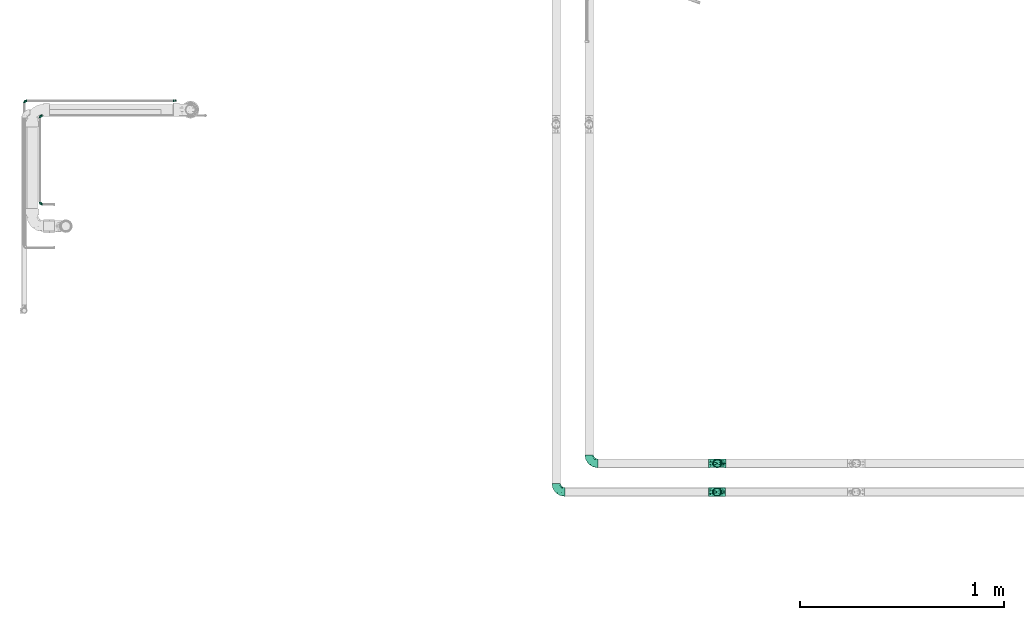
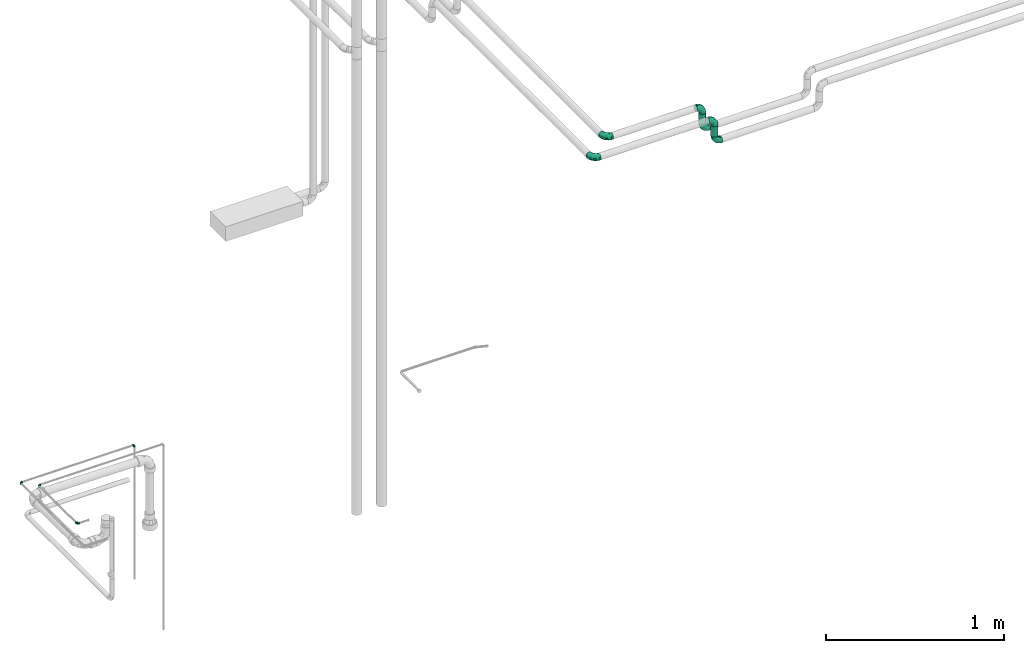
# One storey, part 66 of 108: 10 flow fittings, 2 flow segments.
"""IFC2X3 building model written with IfcOpenShell, lengths in millimetres."""

from ifc_helpers import new_model, entity, si_unit, converted_unit, derived_unit, direction, frame, origin_with_axes, origin_2d_with_axis, place, context, subcontext, project, spatial, hollow_circle, extrude, open_shell, surface_model, source, transform, mapped, type_object, element, save


model = new_model("IFC2X3")

# Units and contexts
model_context = context("Model", 3, precision=0.01, world=frame((0.0, 4.29681676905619e-09, 0.0)), true_north=direction((4.01073788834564e-13, 1.0)))
plan_context = context("Plan", 3, precision=0.01, world=frame((0.0, 4.29681676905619e-09, 0.0)), true_north=direction((4.01073788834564e-13, 1.0)))
body_context = subcontext(model_context, "Body", "Model", "MODEL_VIEW")
ifc_project = project(units=[converted_unit("PLANEANGLEUNIT", "DEGREE", entity("IfcPositiveLengthMeasure", 0.0174532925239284), si_unit("PLANEANGLEUNIT", "RADIAN"), dimensions=[0, 0, 0, 0, 0, 0, 0]), si_unit("AREAUNIT", "SQUARE_METRE"), si_unit("LENGTHUNIT", "METRE", prefix="MILLI"), si_unit("MASSUNIT", "GRAM", prefix="KILO"), si_unit("POWERUNIT", "WATT"), si_unit("PRESSUREUNIT", "PASCAL", prefix="KILO"), si_unit("FORCEUNIT", "NEWTON", prefix="KILO"), si_unit("ELECTRICVOLTAGEUNIT", "VOLT"), si_unit("ELECTRICCURRENTUNIT", "AMPERE"), si_unit("THERMODYNAMICTEMPERATUREUNIT", "DEGREE_CELSIUS"), si_unit("TIMEUNIT", "SECOND"), si_unit("VOLUMEUNIT", "CUBIC_METRE"), derived_unit("LINEARVELOCITYUNIT", [(si_unit("LENGTHUNIT", "METRE"), 1), (si_unit("TIMEUNIT", "SECOND"), -1)]), derived_unit("VOLUMETRICFLOWRATEUNIT", [(si_unit("VOLUMEUNIT", "CUBIC_METRE"), 1), (si_unit("TIMEUNIT", "SECOND"), -1)]), derived_unit("THERMALTRANSMITTANCEUNIT", [(si_unit("POWERUNIT", "WATT"), 1), (si_unit("THERMODYNAMICTEMPERATUREUNIT", "KELVIN"), -1), (si_unit("AREAUNIT", "SQUARE_METRE"), -1)]), derived_unit("SOUNDPRESSUREUNIT", [(si_unit("PRESSUREUNIT", "PASCAL"), 1)])], contexts=[model_context, plan_context])

# Site, building, storey
site_placement = place(None, frame((0.0, -4.29681676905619e-09, 0.0), z_axis=(0.0, 0.0, 1.0), x_axis=(1.0, 0.0, 0.0)))
site = spatial("IfcSite", under=ifc_project, at=site_placement, CompositionType="ELEMENT")
building_placement = place(site_placement, frame((0.0, 4.29681676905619e-09, 0.0), z_axis=(0.0, 0.0, 1.0), x_axis=(1.0, 0.0, 0.0)))
building = spatial("IfcBuilding", under=site, at=building_placement, Name="mc-building", CompositionType="ELEMENT")
storey_placement = place(building_placement, frame((0.0, 0.0, 210200.0), z_axis=(0.0, 0.0, 1.0), x_axis=(1.0, 0.0, 0.0)))
storey = spatial("IfcBuildingStorey", under=building, at=storey_placement, Name="Nivå F - 0,7 m", CompositionType="ELEMENT", Elevation=210200.0)

# Flow fittings
pipe_fitting_type_1 = type_object("IfcPipeFittingType", Name="magi_pipe_fe_elbow_short_001", PredefinedType="BEND")
shared_shape_1 = source(origin_with_axes(), body_context, "Body", "SurfaceModel", [
    surface_model("IfcShellBasedSurfaceModel", [(-42.4, 10.6, -18.35974), (-42.4, 5.48696, -20.47763), (-42.4, 0.0, -21.2), (-42.4, 14.99066, -14.99066), (-42.4, 20.47763, -5.48696), (-42.4, 18.35974, -10.6), (-42.4, -14.99066, 14.99066), (-42.4, -21.2, 0.0), (-42.4, -10.6, -18.35974), (-42.4, -14.99066, -14.99066), (-42.4, -5.48696, -20.47763), (-42.4, -18.35974, -10.6), (-42.4, -20.47763, -5.48696), (-42.4, 10.6, 18.35974), (-42.4, 20.47763, 5.48696), (-42.4, 18.35974, 10.6), (-42.4, 14.99066, 14.99066), (-42.4, 5.48696, 20.47763), (-42.4, 0.0, 21.2), (-42.4, -20.47763, 5.48696), (-42.4, -18.35974, 10.6), (-42.4, -10.6, 18.35974), (-42.4, -5.48696, 20.47763), (-42.4, 21.2, 0.0), (0.0, 42.4, -21.2), (-5.48696, 42.4, -20.47763), (-10.6, 42.4, -18.35974), (-14.99066, 42.4, -14.99066), (-18.35974, 42.4, -10.6), (-20.47763, 42.4, -5.48696), (21.2, 42.4, 0.0), (5.48696, 42.4, -20.47763), (14.99066, 42.4, -14.99066), (10.6, 42.4, -18.35974), (18.35974, 42.4, -10.6), (20.47763, 42.4, -5.48696), (14.99066, 42.4, 14.99066), (-20.47763, 42.4, 5.48696), (-10.6, 42.4, 18.35974), (-14.99066, 42.4, 14.99066), (-18.35974, 42.4, 10.6), (-5.48696, 42.4, 20.47763), (0.0, 42.4, 21.2), (18.35974, 42.4, 10.6), (20.47763, 42.4, 5.48696), (5.48696, 42.4, 20.47763), (10.6, 42.4, 18.35974), (-21.2, 42.4, 0.0), (-31.10239, -16.47009, 11.90111), (-27.83957, -12.231, 15.79732), (-30.23067, -18.77937, 0.0), (-18.74048, -13.50096, 10.69998), (-28.17586, -18.50359, 6.61185), (18.50359, 28.17586, 6.61185), (14.95929, 16.60735, 5.43468), (16.35874, 18.06133, 0.0), (-20.72313, 33.83635, 9.21426), (-17.70981, 33.00599, 13.92769), (-31.16033, -8.01664, 19.07348), (-32.38682, -2.80842, 20.83743), (-29.68688, 3.24967, 21.16387), (-7.74467, -9.46536, 0.0), (-16.60735, -14.95929, 5.43468), (-18.06133, -16.35874, 0.0), (-16.37932, -5.14532, 17.61254), (-21.10659, -0.19025, 20.54817), (-1.82445, -3.58377, 9.55223), (-0.35533, 0.43745, 12.66367), (-7.20655, -5.07682, 13.06146), (-33.14056, 17.6728, 13.91288), (-7.36799, 20.84806, 21.16196), (-15.70315, 15.70315, 20.68489), (-12.62356, 9.26422, 21.0908), (-36.67879, 12.83836, 17.27427), (-7.91358, 36.5686, 19.85759), (-2.90555, 31.71221, 21.14793), (-33.84689, 20.71971, 9.21285), (-33.51649, 22.58113, 4.66115), (-26.3226, 26.3226, 7.92474), (-32.67995, 8.31454, 20.02643), (-5.53379, 14.19921, 20.81623), (-10.53385, 3.88918, 19.79653), (-2.16577, 11.45378, 19.48254), (-3.78693, 3.78693, 17.3328), (12.231, 27.83957, 15.79732), (13.50096, 18.74047, 10.69998), (16.47009, 31.10239, 11.90111), (-22.53806, 14.38475, 19.60876), (-23.29615, 9.08095, 20.82061), (2.80842, 32.38682, 20.83743), (8.01664, 31.16033, 19.07348), (5.14532, 16.37932, 17.61254), (18.77937, 30.23067, 0.0), (-20.80278, 5.19491, 21.19095), (-19.62579, 22.38752, 17.42006), (-29.19336, 14.39093, 17.85259), (-22.31569, 34.20044, 4.54807), (-26.56962, 27.80621, 3.73106), (9.67657, 17.17133, 14.49993), (-24.04026, 31.8, 0.0), (-9.16861, 28.72652, 20.19004), (-12.09761, 21.9456, 20.37969), (-15.36991, 27.40112, 17.818), (-16.88976, 20.52477, 19.2896), (-12.95169, 35.54896, 17.36222), (-17.17133, -9.67657, 14.49993), (-21.98655, 28.10245, 11.99898), (-22.34699, 23.67592, 15.01692), (-27.22822, 22.77969, 11.82161), (0.19025, 21.10658, 20.54817), (4.8276, 7.36347, 13.42842), (-10.06209, -9.46364, 9.95114), (1.25876, -2.7536, 5.73797), (6.43781, 3.77591, 7.40371), (6.57528, 2.20066, 3.17705), (10.91934, 8.84313, 5.00748), (10.64415, 10.99764, 8.89767), (-31.8, 24.04026, 0.0), (-5.71381, -8.43063, 6.15529), (2.57199, -2.57199, 0.0), (9.46536, 7.74467, 0.0), (-17.17133, -9.67657, -14.49993), (-27.83957, -12.231, -15.79732), (-16.37932, -5.14532, -17.61254), (-18.74048, -13.50096, -10.69998), (-33.00599, 17.70981, -13.92769), (-35.54896, 12.95169, -17.36222), (-34.20044, 22.31569, -4.54807), (-28.17586, -18.50359, -6.61185), (-26.3226, 26.3226, -7.92474), (-33.83635, 20.72313, -9.21426), (-16.60735, -14.95929, -5.43468), (-20.52477, 16.88976, -19.2896), (-21.9456, 12.0976, -20.37969), (-27.40112, 15.36991, -17.818), (-12.83836, 36.67879, -17.27427), (-17.6728, 33.14056, -13.91288), (8.01664, 31.16033, -19.07348), (5.14532, 16.37932, -17.61254), (0.19025, 21.10658, -20.54817), (-36.5686, 7.91358, -19.85759), (-31.10239, -16.47009, -11.90111), (-31.16033, -8.01664, -19.07348), (-14.38475, 22.53806, -19.60876), (-8.31454, 32.67995, -20.02643), (-9.08095, 23.29615, -20.82061), (-32.38682, -2.80842, -20.83743), (-20.84806, 7.36799, -21.16196), (-15.70315, 15.70314, -20.68489), (-9.26422, 12.62356, -21.0908), (-31.71221, 2.90555, -21.14793), (-22.58113, 33.51649, -4.66115), (-20.71971, 33.84689, -9.21285), (-28.72652, 9.16861, -20.19004), (-27.80621, 26.56962, -3.73106), (-5.19491, 20.80278, -21.19095), (-22.38752, 19.62579, -17.42006), (-14.39093, 29.19336, -17.85259), (2.80842, 32.38682, -20.83743), (-3.24967, 29.68688, -21.16387), (16.47009, 31.10239, -11.90111), (12.231, 27.83957, -15.79732), (6.57528, 2.20067, -3.17705), (10.91934, 8.84313, -5.00749), (-14.19921, 5.53379, -20.81623), (-3.88918, 10.53385, -19.79653), (-11.45378, 2.16577, -19.48254), (1.25876, -2.7536, -5.73797), (-5.71381, -8.43063, -6.15529), (-1.82445, -3.58377, -9.55223), (13.50096, 18.74048, -10.69998), (18.50359, 28.17586, -6.61185), (14.95929, 16.60735, -5.43468), (-28.10245, 21.98655, -11.99898), (9.67657, 17.17133, -14.49993), (10.64415, 10.99764, -8.89767), (4.8276, 7.36347, -13.42842), (-23.67592, 22.34699, -15.01692), (-22.77969, 27.22822, -11.82161), (-21.10658, -0.19025, -20.54817), (-3.78693, 3.78693, -17.3328), (-7.20655, -5.07682, -13.06146), (-10.06209, -9.46364, -9.95113), (-0.35533, 0.43745, -12.66367), (6.43781, 3.77591, -7.40371)], [open_shell([[[0, 1, 2]], [[3, 0, 2]], [[4, 5, 3]], [[2, 4, 3]], [[6, 2, 7]], [[8, 9, 10]], [[11, 10, 9]], [[12, 7, 11]], [[2, 10, 11]], [[11, 7, 2]], [[6, 4, 2]], [[13, 14, 4]], [[15, 14, 16]], [[4, 6, 13]], [[16, 14, 13]], [[17, 13, 18]], [[19, 20, 7]], [[7, 20, 6]], [[21, 22, 6]], [[18, 6, 22]], [[6, 18, 13]], [[23, 4, 14]], [[24, 25, 26]], [[24, 26, 27]], [[27, 28, 29]], [[27, 29, 24]], [[24, 29, 30]], [[31, 32, 33]], [[31, 24, 32]], [[34, 30, 35]], [[32, 24, 34]], [[24, 30, 34]], [[29, 36, 30]], [[29, 37, 38]], [[39, 37, 40]], [[36, 29, 38]], [[38, 37, 39]], [[41, 42, 38]], [[30, 43, 44]], [[36, 43, 30]], [[36, 45, 46]], [[45, 36, 42]], [[38, 42, 36]], [[37, 29, 47]], [[6, 48, 49]], [[19, 7, 50]], [[51, 48, 52]], [[53, 54, 55]], [[48, 6, 20]], [[19, 52, 20]], [[40, 56, 57]], [[49, 21, 6]], [[49, 58, 21]], [[18, 59, 60]], [[61, 62, 63]], [[58, 64, 65]], [[66, 67, 68]], [[15, 16, 69]], [[70, 71, 72]], [[13, 73, 16]], [[22, 59, 18]], [[41, 74, 75]], [[18, 60, 17]], [[15, 69, 76]], [[16, 73, 69]], [[23, 14, 77]], [[14, 15, 76]], [[77, 76, 78]], [[17, 79, 13]], [[80, 81, 82]], [[68, 83, 64]], [[84, 36, 46]], [[85, 86, 84]], [[87, 79, 88]], [[21, 58, 22]], [[42, 89, 45]], [[53, 44, 43]], [[42, 41, 75]], [[84, 90, 91]], [[43, 86, 53]], [[92, 44, 53]], [[86, 43, 36]], [[90, 46, 45]], [[53, 55, 92]], [[88, 93, 72]], [[54, 53, 85]], [[87, 94, 95]], [[78, 96, 97]], [[98, 84, 91]], [[99, 96, 47]], [[79, 17, 60]], [[96, 78, 56]], [[62, 52, 63]], [[57, 39, 40]], [[100, 70, 75]], [[101, 102, 103]], [[19, 50, 52]], [[104, 38, 39]], [[74, 41, 38]], [[57, 102, 104]], [[105, 64, 49]], [[90, 84, 46]], [[40, 37, 56]], [[56, 106, 57]], [[102, 57, 107]], [[95, 107, 69]], [[76, 108, 78]], [[100, 101, 70]], [[89, 75, 109]], [[64, 58, 49]], [[63, 52, 50]], [[59, 58, 65]], [[105, 49, 51]], [[64, 83, 81]], [[89, 90, 45]], [[30, 44, 92]], [[109, 82, 91]], [[109, 91, 90]], [[91, 83, 110]], [[111, 68, 105]], [[66, 68, 111]], [[62, 51, 52]], [[66, 112, 113]], [[114, 115, 113]], [[98, 85, 84]], [[52, 48, 20]], [[49, 48, 51]], [[84, 86, 36]], [[53, 86, 85]], [[88, 79, 60]], [[73, 79, 95]], [[96, 56, 37]], [[78, 108, 106]], [[87, 103, 94]], [[100, 74, 104]], [[108, 69, 107]], [[78, 97, 77]], [[88, 72, 71]], [[109, 75, 70]], [[81, 72, 65]], [[70, 72, 80]], [[75, 89, 42]], [[90, 89, 109]], [[58, 59, 22]], [[60, 59, 65]], [[67, 83, 68]], [[110, 113, 116]], [[88, 60, 93]], [[87, 88, 71]], [[103, 87, 71]], [[79, 87, 95]], [[101, 103, 71]], [[94, 103, 102]], [[47, 96, 37]], [[96, 99, 97]], [[99, 117, 97]], [[97, 117, 77]], [[23, 77, 117]], [[14, 76, 77]], [[60, 65, 93]], [[65, 72, 93]], [[70, 101, 71]], [[102, 101, 100]], [[69, 108, 76]], [[106, 108, 107]], [[57, 106, 107]], [[78, 106, 56]], [[57, 104, 39]], [[100, 104, 102]], [[102, 107, 94]], [[95, 94, 107]], [[64, 81, 65]], [[82, 81, 83]], [[91, 82, 83]], [[80, 82, 109]], [[70, 80, 109]], [[81, 80, 72]], [[79, 73, 13]], [[69, 73, 95]], [[104, 74, 38]], [[75, 74, 100]], [[62, 61, 118]], [[111, 62, 118]], [[113, 115, 116]], [[119, 118, 61]], [[111, 105, 51]], [[113, 112, 114]], [[120, 55, 54]], [[68, 64, 105]], [[91, 110, 98]], [[116, 98, 110]], [[62, 111, 51]], [[66, 111, 118]], [[112, 66, 118]], [[67, 113, 110]], [[118, 119, 112]], [[114, 112, 119]], [[119, 120, 114]], [[115, 120, 54]], [[120, 115, 114]], [[116, 54, 85]], [[54, 116, 115]], [[116, 85, 98]], [[113, 67, 66]], [[83, 67, 110]], [[121, 122, 123]], [[122, 121, 124]], [[5, 125, 3]], [[3, 126, 0]], [[117, 127, 23]], [[50, 12, 128]], [[127, 129, 130]], [[128, 131, 63]], [[132, 133, 134]], [[27, 135, 136]], [[137, 138, 139]], [[0, 140, 1]], [[128, 11, 141]], [[142, 8, 10]], [[128, 63, 50]], [[5, 4, 130]], [[11, 9, 141]], [[143, 144, 145]], [[146, 10, 2]], [[147, 148, 149]], [[11, 128, 12]], [[124, 141, 122]], [[150, 2, 1]], [[151, 152, 129]], [[125, 134, 126]], [[153, 147, 150]], [[127, 154, 129]], [[145, 155, 149]], [[47, 29, 151]], [[143, 156, 157]], [[152, 29, 28]], [[24, 158, 159]], [[122, 9, 8]], [[27, 26, 135]], [[144, 26, 25]], [[32, 160, 161]], [[24, 31, 158]], [[120, 162, 163]], [[130, 125, 5]], [[27, 136, 28]], [[1, 140, 150]], [[33, 161, 137]], [[142, 122, 8]], [[24, 159, 25]], [[164, 165, 166]], [[167, 168, 169]], [[34, 160, 32]], [[161, 33, 32]], [[170, 160, 171]], [[131, 128, 124]], [[30, 92, 35]], [[35, 92, 171]], [[172, 171, 55]], [[35, 171, 34]], [[144, 25, 159]], [[130, 173, 125]], [[174, 175, 176]], [[136, 152, 28]], [[33, 137, 31]], [[122, 142, 123]], [[134, 125, 177]], [[157, 177, 136]], [[152, 178, 129]], [[153, 133, 147]], [[146, 150, 179]], [[146, 142, 10]], [[7, 12, 50]], [[179, 166, 123]], [[179, 123, 142]], [[123, 180, 181]], [[138, 137, 161]], [[55, 171, 92]], [[158, 137, 139]], [[174, 161, 170]], [[138, 180, 165]], [[180, 138, 176]], [[124, 121, 182]], [[176, 183, 180]], [[61, 131, 168]], [[169, 168, 182]], [[172, 170, 171]], [[122, 141, 9]], [[128, 141, 124]], [[171, 160, 34]], [[161, 160, 170]], [[145, 144, 159]], [[135, 144, 157]], [[127, 130, 4]], [[129, 178, 173]], [[143, 132, 156]], [[153, 140, 126]], [[178, 136, 177]], [[129, 154, 151]], [[145, 149, 148]], [[179, 150, 147]], [[165, 149, 139]], [[147, 149, 164]], [[150, 146, 2]], [[142, 146, 179]], [[137, 158, 31]], [[159, 158, 139]], [[174, 138, 161]], [[184, 169, 183]], [[145, 159, 155]], [[143, 145, 148]], [[132, 143, 148]], [[144, 143, 157]], [[133, 132, 148]], [[156, 132, 134]], [[23, 127, 4]], [[127, 117, 154]], [[117, 99, 154]], [[154, 99, 151]], [[47, 151, 99]], [[29, 152, 151]], [[159, 139, 155]], [[139, 149, 155]], [[147, 133, 148]], [[134, 133, 153]], [[136, 178, 152]], [[173, 178, 177]], [[125, 173, 177]], [[129, 173, 130]], [[125, 126, 3]], [[153, 126, 134]], [[134, 177, 156]], [[157, 156, 177]], [[138, 165, 139]], [[166, 165, 180]], [[123, 166, 180]], [[164, 166, 179]], [[147, 164, 179]], [[165, 164, 149]], [[144, 135, 26]], [[136, 135, 157]], [[126, 140, 0]], [[150, 140, 153]], [[182, 131, 124]], [[168, 119, 61]], [[119, 167, 162]], [[63, 131, 61]], [[172, 163, 175]], [[172, 55, 120]], [[123, 181, 121]], [[182, 121, 181]], [[175, 174, 170]], [[176, 138, 174]], [[169, 182, 181]], [[131, 182, 168]], [[183, 169, 181]], [[167, 169, 184]], [[162, 167, 184]], [[119, 168, 167]], [[163, 162, 184]], [[120, 119, 162]], [[175, 163, 184]], [[120, 163, 172]], [[176, 175, 184]], [[172, 175, 170]], [[180, 183, 181]], [[184, 183, 176]]])]),
])
for number, where, z_axis, x_axis, name in (
    (1, (324610.22236, 460394.12277, 3038.28479999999), (0.0, 0.0, 1.0), (0.0, -1.0, 0.0), "magi_pipe_fe_elbow_short_001"),
    (2, (325237.62236, 460394.12277, 3038.28479999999), (0.0, -1.0, 0.0), (0.0, 0.0, 1.0), "magi_pipe_fe_elbow_short_001"),
    (3, (325237.62236, 460394.12277, 2882.13959999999), (0.0, -1.0, 0.0), (0.0, 0.0, -1.0), "magi_pipe_fe_elbow_short_001"),
    (4, (324448.8625, 460254.12277, 3038.28479999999), (0.0, 0.0, 1.0), (0.0, -1.0, 0.0), "magi_pipe_fe_elbow_short_001"),
    (5, (325236.2625, 460254.12277, 3038.28479999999), (0.0, -1.0, 0.0), (0.0, 0.0, 1.0), "magi_pipe_fe_elbow_short_001"),
    (6, (325236.2625, 460254.12277, 2882.13959999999), (0.0, -1.0, 0.0), (0.0, 0.0, -1.0), "magi_pipe_fe_elbow_short_001"),
):
    element("IfcFlowFitting", number, at=place(storey_placement, frame(where, z_axis=z_axis, x_axis=x_axis)), inside=storey, type_object=pipe_fitting_type_1, Name=name, context=body_context, shape_type="MappedRepresentation", body=[
        mapped(shared_shape_1, transform((0.0, 0.0, 0.0), scale=1.0)),
    ])
pipe_fitting_type_2 = type_object("IfcPipeFittingType", Name="magi_pipe_elbow_short_001", PredefinedType="BEND")
shared_shape_2 = source(origin_with_axes(), body_context, "Body", "SurfaceModel", [
    surface_model("IfcShellBasedSurfaceModel", [(-12.0, 0.0, -6.0), (-12.0, -5.19615, -3.0), (-12.0, 1.55291, -5.79555), (-12.0, 5.79555, -1.55291), (-12.0, -5.79555, -1.55291), (-12.0, -6.0, 0.0), (-12.0, -1.55291, 5.79555), (-12.0, 0.0, 6.0), (-12.0, -3.0, 5.19615), (-12.0, 3.0, -5.19615), (-12.0, 5.19615, -3.0), (-12.0, 4.24264, -4.24264), (-12.0, -3.0, -5.19615), (-12.0, -4.24264, -4.24264), (-12.0, -1.55291, -5.79555), (-12.0, 6.0, 0.0), (-12.0, -4.24264, 4.24264), (-12.0, 5.79555, 1.55291), (-12.0, 5.19615, 3.0), (-12.0, 4.24264, 4.24264), (-12.0, 1.55291, 5.79555), (-12.0, 3.0, 5.19615), (-12.0, -5.79555, 1.55291), (-12.0, -5.19615, 3.0), (-1.55291, 12.0, -5.79555), (5.19615, 12.0, -3.0), (0.0, 12.0, -6.0), (-5.79555, 12.0, -1.55291), (-3.0, 12.0, -5.19615), (-4.24264, 12.0, -4.24264), (-5.19615, 12.0, -3.0), (-1.55291, 12.0, 5.79555), (1.55291, 12.0, -5.79555), (4.24264, 12.0, -4.24264), (3.0, 12.0, -5.19615), (6.0, 12.0, 0.0), (5.79555, 12.0, -1.55291), (4.24264, 12.0, 4.24264), (-5.19615, 12.0, 3.0), (-5.79555, 12.0, 1.55291), (-4.24264, 12.0, 4.24264), (-3.0, 12.0, 5.19615), (5.19615, 12.0, 3.0), (5.79555, 12.0, 1.55291), (3.0, 12.0, 5.19615), (0.0, 12.0, 6.0), (1.55291, 12.0, 5.79555), (-6.0, 12.0, 0.0), (-2.67965, 2.67964, 5.88263), (-6.5981, -3.76246, 0.0), (0.72792, -0.72792, 0.0), (3.76246, 6.5981, 0.0), (-7.75736, 7.75736, 0.0), (-2.67964, 2.67964, -5.88263)], [open_shell([[[0, 1, 2]], [[3, 2, 1]], [[4, 5, 1]], [[6, 7, 8]], [[9, 2, 3]], [[3, 10, 11]], [[9, 3, 11]], [[12, 13, 14]], [[1, 14, 13]], [[0, 14, 1]], [[1, 5, 3]], [[5, 15, 3]], [[16, 17, 5]], [[18, 17, 19]], [[20, 21, 19]], [[17, 20, 19]], [[20, 17, 8]], [[5, 22, 23]], [[5, 23, 16]], [[17, 16, 8]], [[20, 8, 7]], [[17, 15, 5]], [[24, 25, 26]], [[27, 24, 28]], [[29, 30, 27]], [[29, 27, 28]], [[31, 25, 24]], [[32, 33, 34]], [[33, 32, 25]], [[25, 35, 36]], [[25, 32, 26]], [[25, 37, 35]], [[38, 24, 27]], [[27, 39, 38]], [[24, 38, 31]], [[40, 41, 31]], [[40, 31, 38]], [[37, 25, 31]], [[35, 42, 43]], [[37, 42, 35]], [[44, 45, 46]], [[44, 37, 31]], [[45, 44, 31]], [[27, 47, 39]], [[6, 48, 7]], [[23, 22, 49]], [[16, 23, 49]], [[22, 5, 49]], [[50, 51, 48]], [[8, 49, 48]], [[20, 7, 48]], [[8, 48, 6]], [[42, 51, 43]], [[16, 49, 8]], [[18, 19, 38]], [[48, 19, 21]], [[17, 18, 52]], [[52, 15, 17]], [[52, 18, 38]], [[21, 20, 48]], [[49, 50, 48]], [[44, 46, 48]], [[51, 44, 48]], [[46, 45, 48]], [[35, 43, 51]], [[44, 51, 37]], [[37, 51, 42]], [[38, 39, 52]], [[47, 52, 39]], [[41, 40, 48]], [[40, 19, 48]], [[38, 19, 40]], [[31, 41, 48]], [[45, 31, 48]], [[9, 53, 2]], [[2, 53, 0]], [[52, 10, 3]], [[50, 49, 53]], [[11, 29, 53]], [[1, 49, 4]], [[11, 10, 29]], [[9, 11, 53]], [[49, 5, 4]], [[1, 13, 49]], [[14, 53, 12]], [[49, 13, 12]], [[12, 53, 49]], [[0, 53, 14]], [[3, 15, 52]], [[52, 47, 27]], [[52, 27, 30]], [[29, 10, 30]], [[32, 53, 26]], [[53, 28, 24]], [[36, 35, 51]], [[53, 29, 28]], [[26, 53, 24]], [[53, 34, 51]], [[51, 34, 33]], [[25, 36, 51]], [[51, 50, 53]], [[51, 33, 25]], [[34, 53, 32]], [[30, 10, 52]]])]),
])
flow_fitting_1_placement = place(storey_placement, frame((322585.77944, 462169.93582, 570.019479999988), z_axis=(0.0, 1.0, 0.0), x_axis=(1.0, 0.0, 0.0)))
element("IfcFlowFitting", 7, at=flow_fitting_1_placement, inside=storey, type_object=pipe_fitting_type_2, Name="magi_pipe_elbow_short_001", context=body_context, shape_type="MappedRepresentation", body=[
    mapped(shared_shape_2, transform((0.0, 0.0, 0.0), scale=1.0)),
])
shared_shape_3 = source(origin_with_axes(), body_context, "Body", "SurfaceModel", [
    surface_model("IfcShellBasedSurfaceModel", [(-12.0, 4.24264, -4.24264), (-12.0, 1.55291, -5.79555), (-12.0, 5.19615, -3.0), (-12.0, 5.19615, 3.0), (-12.0, 5.79555, 1.55291), (-12.0, 6.0, 0.0), (-12.0, -1.55291, -5.79555), (-12.0, 0.0, -6.0), (-12.0, -5.79555, -1.55291), (-12.0, -3.0, -5.19615), (-12.0, -4.24264, -4.24264), (-12.0, -5.19615, -3.0), (-12.0, 3.0, -5.19615), (-12.0, 5.79555, -1.55291), (-12.0, -6.0, 0.0), (-12.0, -5.79555, 1.55291), (-12.0, 4.24264, 4.24264), (-12.0, -4.24264, 4.24264), (-12.0, -5.19615, 3.0), (-12.0, -3.0, 5.19615), (-12.0, -1.55291, 5.79555), (-12.0, 3.0, 5.19615), (-12.0, 0.0, 6.0), (-12.0, 1.55291, 5.79555), (0.0, -12.0, -6.0), (5.19615, -12.0, -3.0), (-1.55291, -12.0, -5.79555), (-3.0, -12.0, -5.19615), (-5.79555, -12.0, -1.55291), (-5.19615, -12.0, -3.0), (-4.24264, -12.0, -4.24264), (3.0, -12.0, -5.19615), (4.24264, -12.0, -4.24264), (1.55291, -12.0, -5.79555), (5.79555, -12.0, -1.55291), (6.0, -12.0, 0.0), (4.24264, -12.0, 4.24264), (3.0, -12.0, 5.19615), (-5.79555, -12.0, 1.55291), (-5.19615, -12.0, 3.0), (-4.24264, -12.0, 4.24264), (-1.55291, -12.0, 5.79555), (-3.0, -12.0, 5.19615), (5.79555, -12.0, 1.55291), (5.19615, -12.0, 3.0), (1.55291, -12.0, 5.79555), (0.0, -12.0, 6.0), (-6.0, -12.0, 0.0), (-2.67965, -2.67964, 5.88263), (-6.5981, 3.76246, 0.0), (3.76246, -6.5981, 0.0), (0.72792, 0.72792, 0.0), (-7.75736, -7.75736, 0.0), (-2.67964, -2.67964, -5.88263)], [open_shell([[[0, 1, 2]], [[3, 4, 5]], [[6, 2, 7]], [[8, 6, 9]], [[10, 11, 8]], [[10, 8, 9]], [[2, 6, 8]], [[1, 0, 12]], [[2, 5, 13]], [[2, 1, 7]], [[8, 5, 2]], [[8, 14, 5]], [[5, 15, 16]], [[17, 15, 18]], [[17, 19, 20]], [[17, 20, 15]], [[21, 15, 20]], [[16, 3, 5]], [[21, 22, 23]], [[21, 16, 15]], [[22, 21, 20]], [[5, 14, 15]], [[24, 25, 26]], [[27, 26, 28]], [[28, 29, 30]], [[27, 28, 30]], [[28, 26, 25]], [[31, 32, 33]], [[25, 33, 32]], [[34, 35, 25]], [[24, 33, 25]], [[35, 36, 25]], [[37, 28, 25]], [[28, 37, 38]], [[39, 38, 40]], [[41, 42, 40]], [[38, 41, 40]], [[41, 38, 37]], [[43, 44, 35]], [[35, 44, 36]], [[45, 46, 37]], [[37, 25, 36]], [[41, 37, 46]], [[47, 28, 38]], [[22, 48, 23]], [[49, 4, 3]], [[49, 3, 16]], [[43, 50, 44]], [[48, 50, 51]], [[48, 49, 21]], [[48, 22, 20]], [[23, 48, 21]], [[49, 5, 4]], [[21, 49, 16]], [[39, 17, 18]], [[19, 17, 48]], [[52, 18, 15]], [[15, 14, 52]], [[39, 18, 52]], [[48, 20, 19]], [[48, 51, 49]], [[48, 45, 37]], [[48, 37, 50]], [[48, 46, 45]], [[50, 43, 35]], [[36, 50, 37]], [[44, 50, 36]], [[52, 38, 39]], [[38, 52, 47]], [[48, 40, 42]], [[48, 17, 40]], [[40, 17, 39]], [[48, 42, 41]], [[48, 41, 46]], [[6, 53, 9]], [[7, 53, 6]], [[8, 11, 52]], [[53, 49, 51]], [[53, 30, 10]], [[50, 35, 34]], [[30, 11, 10]], [[53, 10, 9]], [[13, 5, 49]], [[49, 0, 2]], [[12, 53, 1]], [[12, 0, 49]], [[49, 53, 12]], [[1, 53, 7]], [[52, 14, 8]], [[28, 47, 52]], [[29, 28, 52]], [[29, 11, 30]], [[24, 53, 33]], [[26, 27, 53]], [[13, 49, 2]], [[27, 30, 53]], [[26, 53, 24]], [[50, 31, 53]], [[32, 31, 50]], [[50, 34, 25]], [[53, 51, 50]], [[25, 32, 50]], [[33, 53, 31]], [[52, 11, 29]]])]),
])
for number, where, z_axis, x_axis, name in (
    (8, (321845.77944, 462169.93582, 570.019479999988), (0.0, -3.3999999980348e-05, 0.999999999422), (0.0, 0.999999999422, 3.3999999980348e-05), "magi_pipe_elbow_short_001"),
    (9, (321922.1022, 462097.03657, 570.0), (0.0, 0.0, 1.0), (0.0, 1.0, 0.0), "magi_pipe_elbow_short_001"),
):
    element("IfcFlowFitting", number, at=place(storey_placement, frame(where, z_axis=z_axis, x_axis=x_axis)), inside=storey, type_object=pipe_fitting_type_2, Name=name, context=body_context, shape_type="MappedRepresentation", body=[
        mapped(shared_shape_3, transform((0.0, 0.0, 0.0), scale=1.0)),
    ])
shared_shape_4 = source(origin_with_axes(), body_context, "Body", "SurfaceModel", [
    surface_model("IfcShellBasedSurfaceModel", [(-12.0, 0.0, -6.0), (-12.0, -5.19615, -3.0), (-12.0, 1.55291, -5.79555), (-12.0, 5.79555, -1.55291), (-12.0, -5.79555, -1.55291), (-12.0, -6.0, 0.0), (-12.0, -1.55291, 5.79555), (-12.0, 0.0, 6.0), (-12.0, -3.0, 5.19615), (-12.0, 3.0, -5.19615), (-12.0, 5.19615, -3.0), (-12.0, 4.24264, -4.24264), (-12.0, -3.0, -5.19615), (-12.0, -4.24264, -4.24264), (-12.0, -1.55291, -5.79555), (-12.0, 6.0, 0.0), (-12.0, -4.24264, 4.24264), (-12.0, 5.79555, 1.55291), (-12.0, 5.19615, 3.0), (-12.0, 4.24264, 4.24264), (-12.0, 1.55291, 5.79555), (-12.0, 3.0, 5.19615), (-12.0, -5.79555, 1.55291), (-12.0, -5.19615, 3.0), (-1.55291, 12.0, -5.79555), (5.19615, 12.0, -3.0), (0.0, 12.0, -6.0), (-5.79555, 12.0, -1.55291), (-3.0, 12.0, -5.19615), (-4.24264, 12.0, -4.24264), (-5.19615, 12.0, -3.0), (1.55291, 12.0, -5.79555), (4.24264, 12.0, -4.24264), (3.0, 12.0, -5.19615), (6.0, 12.0, 0.0), (5.79555, 12.0, -1.55291), (-4.24264, 12.0, 4.24264), (-3.0, 12.0, 5.19615), (-1.55291, 12.0, 5.79555), (4.24264, 12.0, 4.24264), (5.19615, 12.0, 3.0), (3.0, 12.0, 5.19615), (0.0, 12.0, 6.0), (1.55291, 12.0, 5.79555), (-2.67965, 2.67964, 5.88263), (-6.5981, -3.76246, 0.0), (0.72792, -0.72792, 0.0), (3.76246, 6.5981, 0.0), (5.79555, 12.0, 1.55291), (-5.19615, 12.0, 3.0), (-7.75736, 7.75736, 0.0), (-5.79555, 12.0, 1.55291), (-6.0, 12.0, 0.0), (-2.67964, 2.67964, -5.88263)], [open_shell([[[0, 1, 2]], [[3, 2, 1]], [[4, 5, 1]], [[6, 7, 8]], [[9, 2, 3]], [[3, 10, 11]], [[9, 3, 11]], [[12, 13, 14]], [[1, 14, 13]], [[0, 14, 1]], [[1, 5, 3]], [[5, 15, 3]], [[16, 17, 5]], [[18, 17, 19]], [[20, 21, 19]], [[17, 20, 19]], [[20, 17, 8]], [[5, 22, 23]], [[5, 23, 16]], [[17, 16, 8]], [[20, 8, 7]], [[17, 15, 5]], [[24, 25, 26]], [[27, 24, 28]], [[29, 30, 27]], [[29, 27, 28]], [[31, 32, 33]], [[32, 31, 25]], [[25, 34, 35]], [[25, 31, 26]], [[36, 37, 38]], [[39, 40, 34]], [[41, 42, 43]], [[42, 41, 38]], [[6, 44, 7]], [[23, 22, 45]], [[16, 23, 45]], [[22, 5, 45]], [[46, 47, 44]], [[8, 45, 44]], [[20, 7, 44]], [[8, 44, 6]], [[40, 47, 48]], [[16, 45, 8]], [[18, 19, 49]], [[44, 19, 21]], [[17, 18, 50]], [[50, 15, 17]], [[50, 18, 49]], [[21, 20, 44]], [[45, 46, 44]], [[41, 43, 44]], [[47, 41, 44]], [[43, 42, 44]], [[34, 48, 47]], [[41, 47, 39]], [[39, 47, 40]], [[49, 51, 50]], [[52, 50, 51]], [[37, 36, 44]], [[36, 19, 44]], [[49, 19, 36]], [[38, 37, 44]], [[42, 38, 44]], [[9, 53, 2]], [[2, 53, 0]], [[50, 10, 3]], [[46, 45, 53]], [[11, 29, 53]], [[1, 45, 4]], [[11, 10, 29]], [[9, 11, 53]], [[45, 5, 4]], [[1, 13, 45]], [[14, 53, 12]], [[45, 13, 12]], [[12, 53, 45]], [[0, 53, 14]], [[3, 15, 50]], [[50, 52, 27]], [[50, 27, 30]], [[29, 10, 30]], [[31, 53, 26]], [[53, 28, 24]], [[35, 34, 47]], [[53, 29, 28]], [[26, 53, 24]], [[53, 33, 47]], [[47, 33, 32]], [[25, 35, 47]], [[47, 46, 53]], [[47, 32, 25]], [[33, 53, 31]], [[30, 10, 50]], [[25, 24, 27]], [[27, 34, 25]], [[27, 52, 34]], [[34, 51, 39]], [[36, 51, 49]], [[36, 38, 51]], [[41, 51, 38]], [[40, 48, 34]], [[41, 39, 51]], [[34, 52, 51]]])]),
])
flow_fitting_2_placement = place(storey_placement, frame((321922.1022, 461662.03657, 570.0), z_axis=(0.0, 0.0, 1.0), x_axis=(0.0, -1.0, 0.0)))
element("IfcFlowFitting", 10, at=flow_fitting_2_placement, inside=storey, type_object=pipe_fitting_type_2, Name="magi_pipe_elbow_short_001", context=body_context, shape_type="MappedRepresentation", body=[
    mapped(shared_shape_4, transform((0.0, 0.0, 0.0), scale=1.0)),
])

# Flow segments
pipe_segment_type = type_object("IfcPipeSegmentType", Name="Stålrør normaltykke", PredefinedType="RIGIDSEGMENT")
shared_shape_5 = source(origin_with_axes(), body_context, "Body", "SweptSolid", [
    extrude(hollow_circle(Radius=21.2, WallThickness=2.0, at=origin_2d_with_axis()), frame((0.0, 0.0, 0.0), z_axis=(1.0, 0.0, 0.0), x_axis=(0.0, 1.0, 0.0)), (0.0, 0.0, 1.0), 71.0),
])
for number, where, z_axis, x_axis in (
    (11, (325237.62236, 460394.12277, 2924.53959999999), (1.0, 0.0, 0.0), (0.0, 0.0, 1.0)),
    (12, (325236.2625, 460254.12277, 2924.53959999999), (1.0, 0.0, 0.0), (0.0, 0.0, 1.0)),
):
    element("IfcFlowSegment", number, at=place(storey_placement, frame(where, z_axis=z_axis, x_axis=x_axis)), inside=storey, type_object=pipe_segment_type, Name="Stålrør normaltykke", context=body_context, shape_type="MappedRepresentation", body=[
        mapped(shared_shape_5, transform((0.0, 0.0, 0.0), scale=1.0)),
    ])

save(model, "model.ifc")
